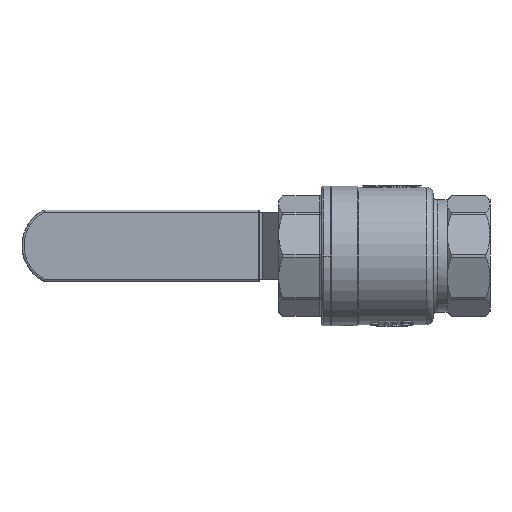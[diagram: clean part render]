
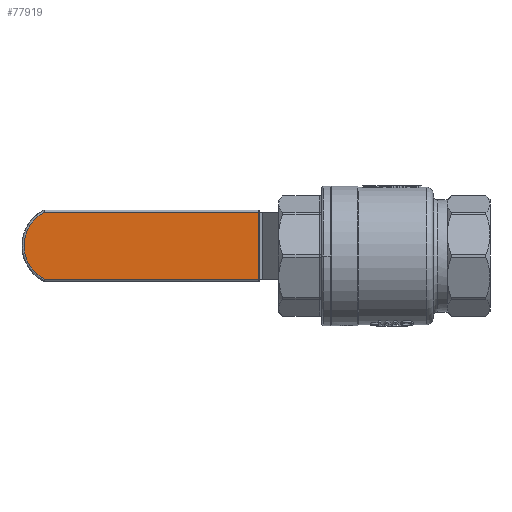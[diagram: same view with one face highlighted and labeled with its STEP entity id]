
A CAD part, front view. The second image highlights one B-rep face of the part: STEP entity #77919.
In plain terms, the highlighted planar face has unit normal (0, -1, 0).
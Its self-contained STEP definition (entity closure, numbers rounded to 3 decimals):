
#11 = LINE ( 'NONE', #9951, #78806 ) ;
#583 = ORIENTED_EDGE ( 'NONE', *, *, #112546, .T. ) ;
#1805 = DIRECTION ( 'NONE',  ( 0., 0., 1. ) ) ;
#1901 = ORIENTED_EDGE ( 'NONE', *, *, #83124, .T. ) ;
#9571 = CIRCLE ( 'NONE', #11821, 18.5 ) ;
#9951 = CARTESIAN_POINT ( 'NONE',  ( -115.628, -5., -16.45 ) ) ;
#11821 = AXIS2_PLACEMENT_3D ( 'NONE', #113924, #32205, #82953 ) ;
#20743 = VERTEX_POINT ( 'NONE', #36619 ) ;
#20896 = CARTESIAN_POINT ( 'NONE',  ( -115.128, -5., 16.45 ) ) ;
#25168 = ORIENTED_EDGE ( 'NONE', *, *, #84632, .T. ) ;
#32205 = DIRECTION ( 'NONE',  ( 0., -1., 0. ) ) ;
#32537 = DIRECTION ( 'NONE',  ( 0., 0., -1. ) ) ;
#36619 = CARTESIAN_POINT ( 'NONE',  ( -115.128, -5., 16.45 ) ) ;
#41786 = EDGE_CURVE ( 'NONE', #20743, #88529, #85186, .T. ) ;
#54695 = LINE ( 'NONE', #67920, #94916 ) ;
#63351 = DIRECTION ( 'NONE',  ( 0., 1., 0. ) ) ;
#64307 = AXIS2_PLACEMENT_3D ( 'NONE', #105575, #63351, #1805 ) ;
#67019 = DIRECTION ( 'NONE',  ( -1., 0., 0. ) ) ;
#67920 = CARTESIAN_POINT ( 'NONE',  ( -115.628, -5., 16.45 ) ) ;
#77657 = CARTESIAN_POINT ( 'NONE',  ( -10.036, -5., -16.45 ) ) ;
#77919 = ADVANCED_FACE ( 'NONE', ( #122858 ), #95230, .F. ) ;
#78806 = VECTOR ( 'NONE', #114976, 1000. ) ;
#82050 = EDGE_LOOP ( 'NONE', ( #25168, #120242, #1901, #583 ) ) ;
#82953 = DIRECTION ( 'NONE',  ( 0., 0., 1. ) ) ;
#83124 = EDGE_CURVE ( 'NONE', #88529, #127331, #11, .T. ) ;
#84632 = EDGE_CURVE ( 'NONE', #90812, #20743, #54695, .T. ) ;
#85186 = LINE ( 'NONE', #20896, #106054 ) ;
#88529 = VERTEX_POINT ( 'NONE', #109943 ) ;
#90812 = VERTEX_POINT ( 'NONE', #125646 ) ;
#94916 = VECTOR ( 'NONE', #67019, 1000. ) ;
#95230 = PLANE ( 'NONE',  #64307 ) ;
#105575 = CARTESIAN_POINT ( 'NONE',  ( -115.628, -5., 16.45 ) ) ;
#106054 = VECTOR ( 'NONE', #32537, 1000. ) ;
#109943 = CARTESIAN_POINT ( 'NONE',  ( -115.128, -5., -16.45 ) ) ;
#112546 = EDGE_CURVE ( 'NONE', #127331, #90812, #9571, .T. ) ;
#113924 = CARTESIAN_POINT ( 'NONE',  ( -18.5, -5., 0. ) ) ;
#114976 = DIRECTION ( 'NONE',  ( 1., 0., 0. ) ) ;
#120242 = ORIENTED_EDGE ( 'NONE', *, *, #41786, .T. ) ;
#122858 = FACE_OUTER_BOUND ( 'NONE', #82050, .T. ) ;
#125646 = CARTESIAN_POINT ( 'NONE',  ( -10.036, -5., 16.45 ) ) ;
#127331 = VERTEX_POINT ( 'NONE', #77657 ) ;
